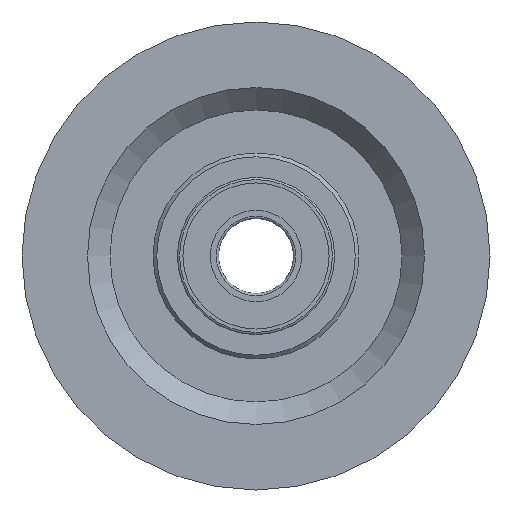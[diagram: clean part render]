
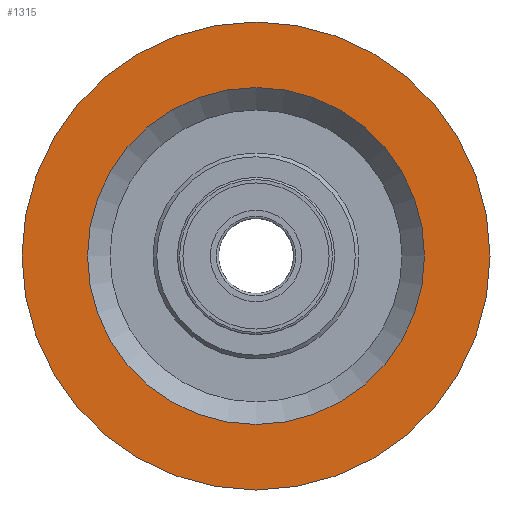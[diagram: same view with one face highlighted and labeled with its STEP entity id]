
A CAD part, left-side view. The second image highlights one B-rep face of the part: STEP entity #1315.
In plain terms, the highlighted planar face has unit normal (-1, 0, 0).
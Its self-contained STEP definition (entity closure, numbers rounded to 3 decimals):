
#210=FACE_BOUND('',#338,.T.);
#260=FACE_OUTER_BOUND('',#337,.T.);
#337=EDGE_LOOP('',(#1006,#1007));
#338=EDGE_LOOP('',(#1008,#1009));
#450=CIRCLE('',#1583,62.5);
#451=CIRCLE('',#1584,62.5);
#469=CIRCLE('',#1612,45.);
#470=CIRCLE('',#1613,45.);
#579=VERTEX_POINT('',#2298);
#580=VERTEX_POINT('',#2300);
#598=VERTEX_POINT('',#2353);
#599=VERTEX_POINT('',#2355);
#740=EDGE_CURVE('',#579,#580,#450,.T.);
#741=EDGE_CURVE('',#580,#579,#451,.T.);
#766=EDGE_CURVE('',#599,#598,#469,.T.);
#767=EDGE_CURVE('',#598,#599,#470,.T.);
#1006=ORIENTED_EDGE('',*,*,#741,.F.);
#1007=ORIENTED_EDGE('',*,*,#740,.F.);
#1008=ORIENTED_EDGE('',*,*,#766,.T.);
#1009=ORIENTED_EDGE('',*,*,#767,.T.);
#1281=PLANE('',#1614);
#1315=ADVANCED_FACE('',(#260,#210),#1281,.T.);
#1583=AXIS2_PLACEMENT_3D('',#2301,#1847,#1848);
#1584=AXIS2_PLACEMENT_3D('',#2302,#1849,#1850);
#1612=AXIS2_PLACEMENT_3D('',#2356,#1912,#1913);
#1613=AXIS2_PLACEMENT_3D('',#2357,#1914,#1915);
#1614=AXIS2_PLACEMENT_3D('',#2358,#1916,#1917);
#1847=DIRECTION('center_axis',(1.,0.,0.));
#1848=DIRECTION('ref_axis',(0.,0.,-1.));
#1849=DIRECTION('center_axis',(1.,0.,0.));
#1850=DIRECTION('ref_axis',(0.,0.,-1.));
#1912=DIRECTION('center_axis',(1.,0.,0.));
#1913=DIRECTION('ref_axis',(0.,0.,-1.));
#1914=DIRECTION('center_axis',(1.,0.,0.));
#1915=DIRECTION('ref_axis',(0.,0.,-1.));
#1916=DIRECTION('center_axis',(-1.,0.,0.));
#1917=DIRECTION('ref_axis',(0.,0.,1.));
#2298=CARTESIAN_POINT('',(-11.,-62.5,0.));
#2300=CARTESIAN_POINT('',(-11.,62.5,0.));
#2301=CARTESIAN_POINT('Origin',(-11.,0.,0.));
#2302=CARTESIAN_POINT('Origin',(-11.,0.,0.));
#2353=CARTESIAN_POINT('',(-11.,-45.,0.));
#2355=CARTESIAN_POINT('',(-11.,45.,0.));
#2356=CARTESIAN_POINT('Origin',(-11.,0.,0.));
#2357=CARTESIAN_POINT('Origin',(-11.,0.,0.));
#2358=CARTESIAN_POINT('Origin',(-11.,62.5,0.));
